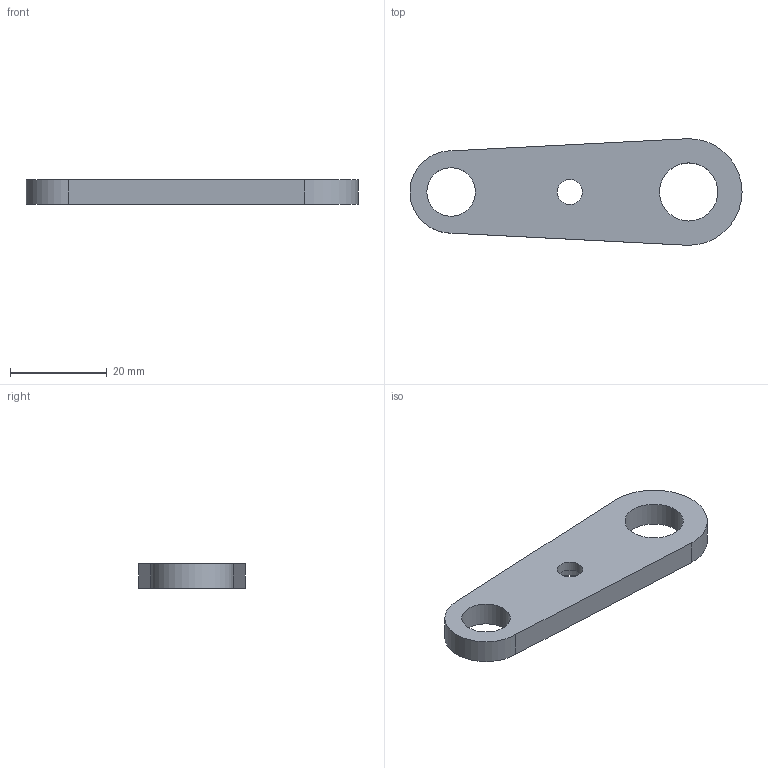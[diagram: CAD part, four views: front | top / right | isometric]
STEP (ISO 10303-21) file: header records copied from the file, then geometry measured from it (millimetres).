
FILE_DESCRIPTION( ( 'Unknown' ), '1' );
FILE_NAME( 'F:/navkite transat/construction/2016/3D ET ASSEMBLAGES/desal/DES 29.stp', 'Unknown', ( 'GMA' ), ( 'Unknown' ), 'XStep 1.0', 'Unknown', ' ' );
FILE_SCHEMA( ( 'automotive_design' ) );
Length unit declared in the file: millimetre
Products named in the file (1): 1
Bounding box: 68.47 x 22 x 5 mm (x, y, z)
Volume: 5055.9 mm3; surface area: 3360.6 mm2
Topology: 1 solids, 1 shells, 11 faces, 25 edges, 17 vertices
Faces by surface type: cylinder 6, plane 5
Full cylindrical faces by diameter (mm): 5.2 x1, 10 x2, 12 x1
Entity records: 406 total; most frequent: DIRECTION 56, CARTESIAN_POINT 48, ORIENTED_EDGE 40, AXIS2_PLACEMENT_3D 24, EDGE_LOOP 22, EDGE_CURVE 20, VERTEX_POINT 16, FACE_OUTER_BOUND 15
